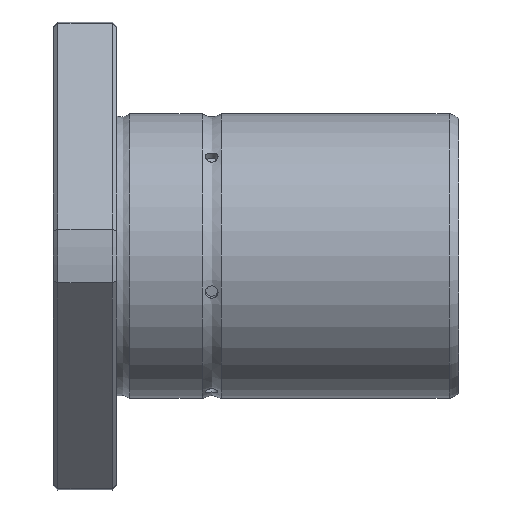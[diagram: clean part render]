
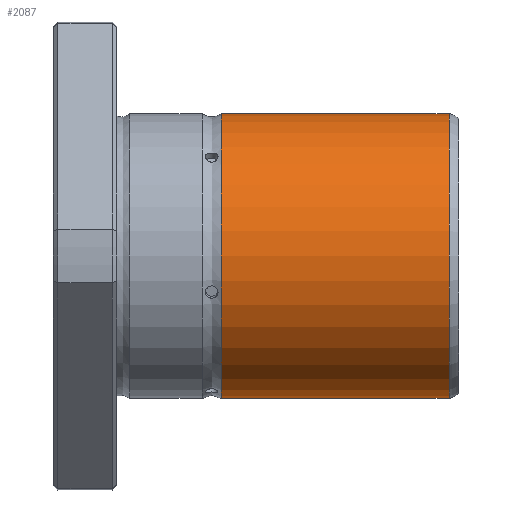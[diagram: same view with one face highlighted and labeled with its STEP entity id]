
A CAD part, front view. The second image highlights one B-rep face of the part: STEP entity #2087.
In plain terms, the highlighted cylindrical face has radius 22.5 mm (diameter 45 mm), a full revolution.
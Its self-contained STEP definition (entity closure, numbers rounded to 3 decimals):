
#2053=CARTESIAN_POINT('',(62.502,0.0,22.5));
#2054=VERTEX_POINT('',#2053);
#2055=CARTESIAN_POINT('',(62.502,0.0,0.0));
#2056=DIRECTION('',(-1.0,0.0,0.0));
#2057=DIRECTION('',(0.0,0.0,1.0));
#2058=AXIS2_PLACEMENT_3D('',#2055,#2056,#2057);
#2059=CIRCLE('',#2058,22.5);
#2060=EDGE_CURVE('',#2054,#2054,#2059,.T.);
#2068=CARTESIAN_POINT('',(44.501,0.0,0.0));
#2069=DIRECTION('',(-1.0,0.0,0.0));
#2070=DIRECTION('',(0.0,0.0,1.0));
#2071=AXIS2_PLACEMENT_3D('',#2068,#2069,#2070);
#2072=CYLINDRICAL_SURFACE('',#2071,22.5);
#2073=CARTESIAN_POINT('',(26.5,0.0,22.5));
#2074=VERTEX_POINT('',#2073);
#2075=CARTESIAN_POINT('',(26.5,0.0,0.0));
#2076=DIRECTION('',(-1.0,0.0,0.0));
#2077=DIRECTION('',(0.0,0.0,1.0));
#2078=AXIS2_PLACEMENT_3D('',#2075,#2076,#2077);
#2079=CIRCLE('',#2078,22.5);
#2080=EDGE_CURVE('',#2074,#2074,#2079,.T.);
#2081=ORIENTED_EDGE('',*,*,#2080,.F.);
#2082=EDGE_LOOP('',(#2081));
#2083=FACE_OUTER_BOUND('',#2082,.T.);
#2084=ORIENTED_EDGE('',*,*,#2060,.T.);
#2085=EDGE_LOOP('',(#2084));
#2086=FACE_BOUND('',#2085,.T.);
#2087=ADVANCED_FACE('',(#2083,#2086),#2072,.T.);
